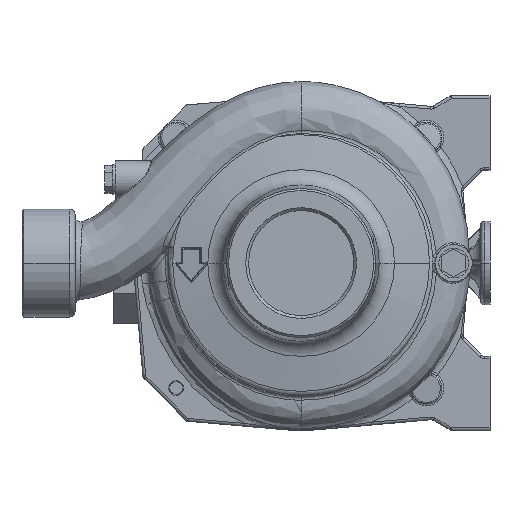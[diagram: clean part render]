
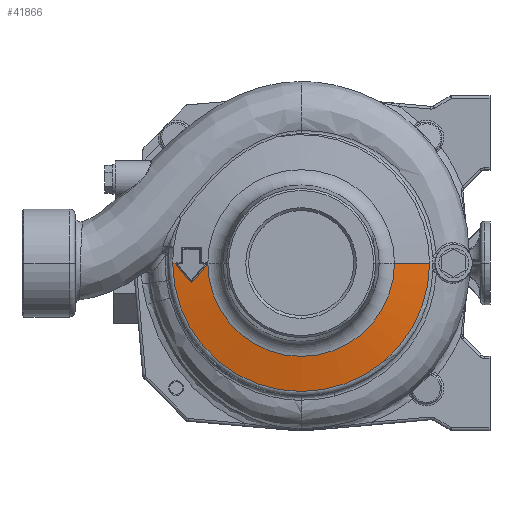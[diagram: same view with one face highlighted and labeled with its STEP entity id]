
A CAD part, left-side view. The second image highlights one B-rep face of the part: STEP entity #41866.
In plain terms, the highlighted conical face has half-angle 80 degrees and reference radius 59.599 mm.
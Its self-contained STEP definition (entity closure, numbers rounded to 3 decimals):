
#30276=CARTESIAN_POINT('',(0.,67.098,
15.222));
#30318=DIRECTION('',(0.,0.985,0.174));
#30319=VECTOR('',#30318,19.134);
#30320=CARTESIAN_POINT('',(0.,-69.021,
14.883));
#30321=LINE('',#30320,#30319);
#30337=CARTESIAN_POINT('',(-1.141,50.828,
18.088));
#30338=CARTESIAN_POINT('',(-1.111,50.803,
18.093));
#30339=CARTESIAN_POINT('',(-1.047,50.756,
18.101));
#30340=CARTESIAN_POINT('',(-0.941,50.695,
18.112));
#30341=CARTESIAN_POINT('',(-0.82,50.644,
18.122));
#30342=CARTESIAN_POINT('',(-0.68,50.607,
18.129));
#30343=CARTESIAN_POINT('',(-0.518,50.59,
18.132));
#30344=CARTESIAN_POINT('',(-0.342,50.601,
18.13));
#30345=CARTESIAN_POINT('',(-0.165,50.646,
18.123));
#30346=CARTESIAN_POINT('',(-0.054,50.697,
18.114));
#30347=CARTESIAN_POINT('',(0.,50.728,
18.108));
#30349=DIRECTION('',(0.,-0.985,0.174));
#30350=VECTOR('',#30349,0.559);
#30351=CARTESIAN_POINT('',(0.,50.728,
18.108));
#30352=LINE('',#30351,#30350);
#30353=CARTESIAN_POINT('',(0.,0.,18.205));
#30354=DIRECTION('',(0.,0.,-1.));
#30355=DIRECTION('',(0.,-1.,0.));
#30356=AXIS2_PLACEMENT_3D('',#30353,#30354,#30355);
#30358=CARTESIAN_POINT('',(0.,0.,14.883));
#30359=DIRECTION('',(0.,0.,1.));
#30360=DIRECTION('',(0.,1.,0.));
#30361=AXIS2_PLACEMENT_3D('',#30358,#30359,#30360);
#30363=DIRECTION('',(0.,-0.985,0.174));
#30364=VECTOR('',#30363,1.953);
#30365=CARTESIAN_POINT('',(0.,69.021,
14.883));
#30366=LINE('',#30365,#30364);
#30367=CARTESIAN_POINT('',(0.,67.098,
15.222));
#30368=CARTESIAN_POINT('',(-0.059,67.132,
15.216));
#30369=CARTESIAN_POINT('',(-0.182,67.187,
15.206));
#30370=CARTESIAN_POINT('',(-0.383,67.232,
15.198));
#30371=CARTESIAN_POINT('',(-0.588,67.235,
15.197));
#30372=CARTESIAN_POINT('',(-0.789,67.196,
15.204));
#30373=CARTESIAN_POINT('',(-0.978,67.117,
15.217));
#30374=CARTESIAN_POINT('',(-1.089,67.042,
15.23));
#30375=CARTESIAN_POINT('',(-1.141,66.998,
15.238));
#30377=CARTESIAN_POINT('',(-1.141,66.998,
15.238));
#30378=CARTESIAN_POINT('',(-2.149,66.152,
15.384));
#30379=CARTESIAN_POINT('',(-4.135,64.483,
15.664));
#30380=CARTESIAN_POINT('',(-7.035,62.046,
16.047));
#30381=CARTESIAN_POINT('',(-8.919,60.463,
16.278));
#30382=CARTESIAN_POINT('',(-9.851,59.68,
16.387));
#30384=CARTESIAN_POINT('',(-9.851,59.68,
16.387));
#30385=CARTESIAN_POINT('',(-9.875,59.66,
16.39));
#30386=CARTESIAN_POINT('',(-9.924,59.615,
16.397));
#30387=CARTESIAN_POINT('',(-9.998,59.531,
16.409));
#30388=CARTESIAN_POINT('',(-10.068,59.429,
16.425));
#30389=CARTESIAN_POINT('',(-10.132,59.306,
16.444));
#30390=CARTESIAN_POINT('',(-10.181,59.161,
16.468));
#30391=CARTESIAN_POINT('',(-10.209,58.993,
16.496));
#30392=CARTESIAN_POINT('',(-10.208,58.809,
16.528));
#30393=CARTESIAN_POINT('',(-10.17,58.621,
16.562));
#30394=CARTESIAN_POINT('',(-10.096,58.443,
16.595));
#30395=CARTESIAN_POINT('',(-9.989,58.281,
16.627));
#30396=CARTESIAN_POINT('',(-9.9,58.19,
16.645));
#30397=CARTESIAN_POINT('',(-9.85,58.148,
16.654));
#30399=CARTESIAN_POINT('',(-9.85,58.148,
16.654));
#30400=CARTESIAN_POINT('',(-8.803,57.268,
16.838));
#30401=CARTESIAN_POINT('',(-6.764,55.554,
17.188));
#30402=CARTESIAN_POINT('',(-3.877,53.129,
17.664));
#30403=CARTESIAN_POINT('',(-2.038,51.583,
17.952));
#30404=CARTESIAN_POINT('',(-1.141,50.828,
18.088));
#32017=CARTESIAN_POINT('',(0.,-50.178,18.205));
#32018=CARTESIAN_POINT('',(0.,50.178,18.205));
#32019=VERTEX_POINT('',#32017);
#32020=VERTEX_POINT('',#32018);
#32073=CARTESIAN_POINT('',(0.,69.021,14.883));
#32074=CARTESIAN_POINT('',(0.,-69.021,14.883));
#32075=VERTEX_POINT('',#32073);
#32076=VERTEX_POINT('',#32074);
#32093=VERTEX_POINT('',#30337);
#32094=VERTEX_POINT('',#30347);
#32119=VERTEX_POINT('',#30276);
#32121=VERTEX_POINT('',#30375);
#32123=VERTEX_POINT('',#30382);
#32125=VERTEX_POINT('',#30397);
#41844=CARTESIAN_POINT('',(0.,0.,16.544));
#41845=DIRECTION('',(0.,0.,-1.));
#41846=DIRECTION('',(0.,-1.,0.));
#41847=AXIS2_PLACEMENT_3D('',#41844,#41845,#41846);
#41848=CONICAL_SURFACE('',#41847,59.6,80.);
#41849=ORIENTED_EDGE('',*,*,#41834,.T.);
#41850=ORIENTED_EDGE('',*,*,#41628,.T.);
#41852=ORIENTED_EDGE('',*,*,#41851,.F.);
#41853=ORIENTED_EDGE('',*,*,#41624,.F.);
#41854=ORIENTED_EDGE('',*,*,#40792,.F.);
#41855=ORIENTED_EDGE('',*,*,#41619,.T.);
#41857=ORIENTED_EDGE('',*,*,#41856,.T.);
#41859=ORIENTED_EDGE('',*,*,#41858,.T.);
#41861=ORIENTED_EDGE('',*,*,#41860,.T.);
#41863=ORIENTED_EDGE('',*,*,#41862,.T.);
#41864=EDGE_LOOP('',(#41849,#41850,#41852,#41853,#41854,#41855,#41857,#41859,
#41861,#41863));
#41865=FACE_OUTER_BOUND('',#41864,.F.);
#30348=B_SPLINE_CURVE_WITH_KNOTS('',3,(#30337,#30338,#30339,#30340,#30341,
#30342,#30343,#30344,#30345,#30346,#30347),.UNSPECIFIED.,.F.,.F.,(4,1,1,1,1,1,1,
1,4),(0.,0.125,0.25,0.375,0.5,0.625,0.75,0.875,1.),
.UNSPECIFIED.);
#30357=CIRCLE('',#30356,50.178);
#30362=CIRCLE('',#30361,69.021);
#30376=B_SPLINE_CURVE_WITH_KNOTS('',3,(#30367,#30368,#30369,#30370,#30371,
#30372,#30373,#30374,#30375),.UNSPECIFIED.,.F.,.F.,(4,1,1,1,1,1,4),(0.,
0.167,0.333,0.5,0.667,0.833,
1.),.UNSPECIFIED.);
#30383=B_SPLINE_CURVE_WITH_KNOTS('',3,(#30377,#30378,#30379,#30380,#30381,
#30382),.UNSPECIFIED.,.F.,.F.,(4,1,1,4),(0.,0.333,
0.667,1.),.UNSPECIFIED.);
#30398=B_SPLINE_CURVE_WITH_KNOTS('',3,(#30384,#30385,#30386,#30387,#30388,
#30389,#30390,#30391,#30392,#30393,#30394,#30395,#30396,#30397),.UNSPECIFIED.,
.F.,.F.,(4,1,1,1,1,1,1,1,1,1,1,4),(0.,0.091,0.182,
0.273,0.364,0.455,0.545,
0.636,0.727,0.818,0.909,1.),
.UNSPECIFIED.);
#30405=B_SPLINE_CURVE_WITH_KNOTS('',3,(#30399,#30400,#30401,#30402,#30403,
#30404),.UNSPECIFIED.,.F.,.F.,(4,1,1,4),(0.,0.333,
0.667,1.),.UNSPECIFIED.);
#40792=EDGE_CURVE('',#32075,#32076,#30362,.T.);
#41619=EDGE_CURVE('',#32075,#32119,#30366,.T.);
#41624=EDGE_CURVE('',#32076,#32019,#30321,.T.);
#41628=EDGE_CURVE('',#32094,#32020,#30352,.T.);
#41834=EDGE_CURVE('',#32093,#32094,#30348,.T.);
#41851=EDGE_CURVE('',#32019,#32020,#30357,.T.);
#41856=EDGE_CURVE('',#32119,#32121,#30376,.T.);
#41858=EDGE_CURVE('',#32121,#32123,#30383,.T.);
#41860=EDGE_CURVE('',#32123,#32125,#30398,.T.);
#41862=EDGE_CURVE('',#32125,#32093,#30405,.T.);
#41866=ADVANCED_FACE('',(#41865),#41848,.T.);
